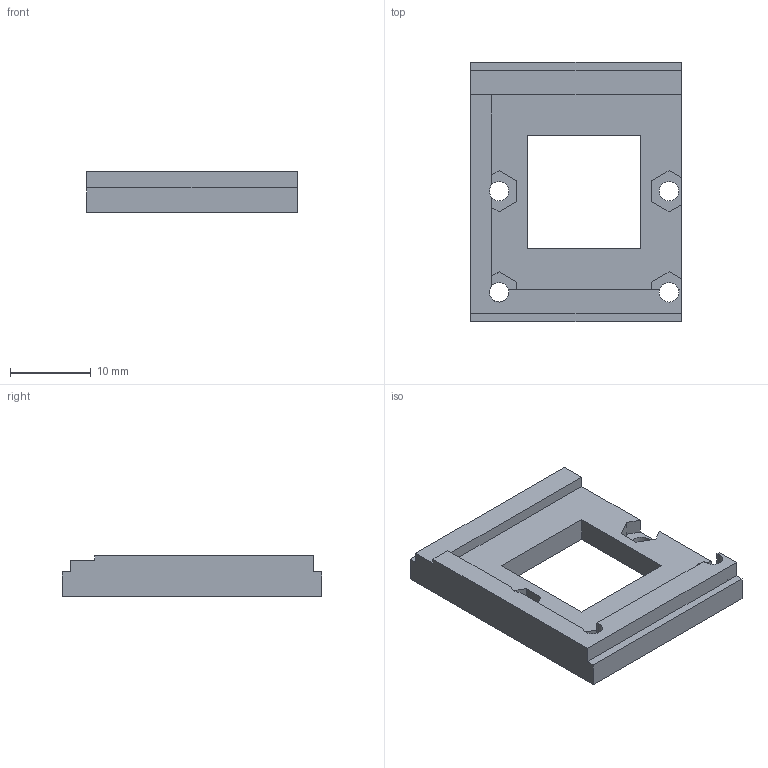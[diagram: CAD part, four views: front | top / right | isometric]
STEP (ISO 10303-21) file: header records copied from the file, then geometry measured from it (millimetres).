
FILE_DESCRIPTION(('Open CASCADE Model'),'2;1');
FILE_NAME('Open CASCADE Shape Model','2026-10-02T07:52:38',('Author'),( 'Open CASCADE'),'Open CASCADE STEP processor 7.8','Open CASCADE 7.8' ,'Unknown');
FILE_SCHEMA(('AUTOMOTIVE_DESIGN { 1 0 10303 214 1 1 1 1 }'));
Length unit declared in the file: millimetre
Products named in the file (1): Open CASCADE STEP translator 7.8 10
Bounding box: 26 x 32 x 5 mm (x, y, z)
Volume: 2147.6 mm3; surface area: 2203.3 mm2
Topology: 1 solids, 1 shells, 58 faces, 167 edges, 111 vertices
Faces by surface type: plane 51, cylinder 7
Full cylindrical faces by diameter (mm): 2.4 x4
Entity records: 3968 total; most frequent: CARTESIAN_POINT 817, DIRECTION 507, LINE 351, VECTOR 351, ORIENTED_EDGE 334, PCURVE 334, DEFINITIONAL_REPRESENTATION 334, EDGE_CURVE 167
